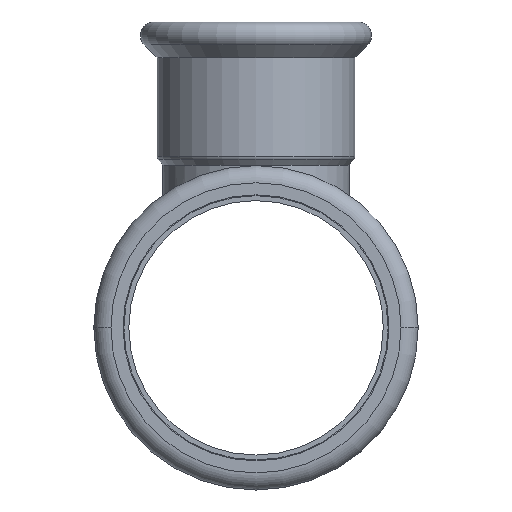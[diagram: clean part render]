
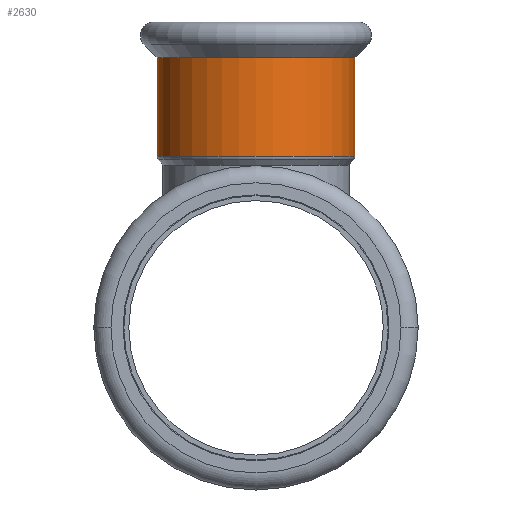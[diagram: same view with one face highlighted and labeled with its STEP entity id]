
A CAD part, left-side view. The second image highlights one B-rep face of the part: STEP entity #2630.
In plain terms, the highlighted cylindrical face has radius 40.45 mm (diameter 80.9 mm), a partial arc.
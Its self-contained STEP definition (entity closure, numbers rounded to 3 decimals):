
#970=CARTESIAN_POINT('',(8.088,-40.45,0.));
#980=VERTEX_POINT('',#970);
#1150=CARTESIAN_POINT('',(8.088,40.45,0.));
#1160=VERTEX_POINT('',#1150);
#1190=CARTESIAN_POINT('',(8.088,0.,0.));
#1200=DIRECTION('',(-1.,0.,0.));
#1210=DIRECTION('',(0.,1.,0.));
#1220=AXIS2_PLACEMENT_3D('',#1190,#1200,#1210);
#1230=CIRCLE('',#1220,40.45);
#1240=EDGE_CURVE('',#980,#1160,#1230,.T.);
#2320=CARTESIAN_POINT('',(36.969,0.,0.));
#2330=DIRECTION('',(-1.,0.,0.));
#2340=DIRECTION('',(0.,1.,0.));
#2350=AXIS2_PLACEMENT_3D('',#2320,#2330,#2340);
#2360=CYLINDRICAL_SURFACE('',#2350,40.45);
#2370=CARTESIAN_POINT('',(36.969,40.45,0.));
#2380=DIRECTION('',(-1.,0.,0.));
#2390=VECTOR('',#2380,1.);
#2400=LINE('',#2370,#2390);
#2410=CARTESIAN_POINT('',(48.422,40.45,0.));
#2420=VERTEX_POINT('',#2410);
#2430=EDGE_CURVE('',#2420,#1160,#2400,.T.);
#2440=ORIENTED_EDGE('',*,*,#2430,.T.);
#2450=CARTESIAN_POINT('',(48.422,0.,0.));
#2460=DIRECTION('',(1.,0.,0.));
#2470=DIRECTION('',(0.,1.,0.));
#2480=AXIS2_PLACEMENT_3D('',#2450,#2460,#2470);
#2490=CIRCLE('',#2480,40.45);
#2500=CARTESIAN_POINT('',(48.422,-40.45,0.))
;
#2510=VERTEX_POINT('',#2500);
#2520=EDGE_CURVE('',#2420,#2510,#2490,.T.);
#2530=ORIENTED_EDGE('',*,*,#2520,.F.);
#2540=CARTESIAN_POINT('',(36.969,-40.45,0.))
;
#2550=DIRECTION('',(-1.,0.,0.));
#2560=VECTOR('',#2550,1.);
#2570=LINE('',#2540,#2560);
#2580=EDGE_CURVE('',#2510,#980,#2570,.T.);
#2590=ORIENTED_EDGE('',*,*,#2580,.F.);
#2600=ORIENTED_EDGE('',*,*,#1240,.F.);
#2610=EDGE_LOOP('',(#2600,#2590,#2530,#2440));
#2620=FACE_OUTER_BOUND('',#2610,.T.);
#2630=ADVANCED_FACE('',(#2620),#2360,.T.);
